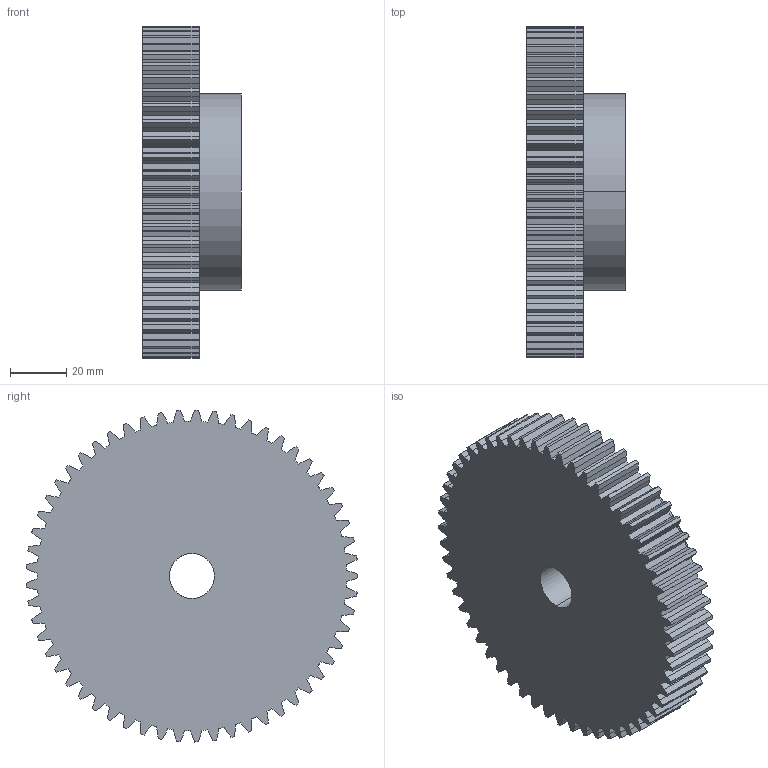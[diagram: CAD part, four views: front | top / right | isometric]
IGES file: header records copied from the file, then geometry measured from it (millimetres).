
Start section: SolidWorks IGES file using analytic representation for surfaces
Global section: file name: C:\Users\Honza\Desktop\Matis (Hotove)\Èelní ozubená kola\PM\MODUL 2\PM 28057.IGS; native system: SolidWorks 2010; preprocessor: SolidWorks 2010; author: Honza; date: 130925.105513; units: millimetre
Bounding box: 35 x 117.94 x 117.98 mm (x, y, z)
Surface area: 38445.9 mm2 (no closed solid volume)
Topology: 0 solids, 0 shells, 349 faces, 2301 edges, 2301 vertices
Faces by surface type: bspline 231, revolution 118
